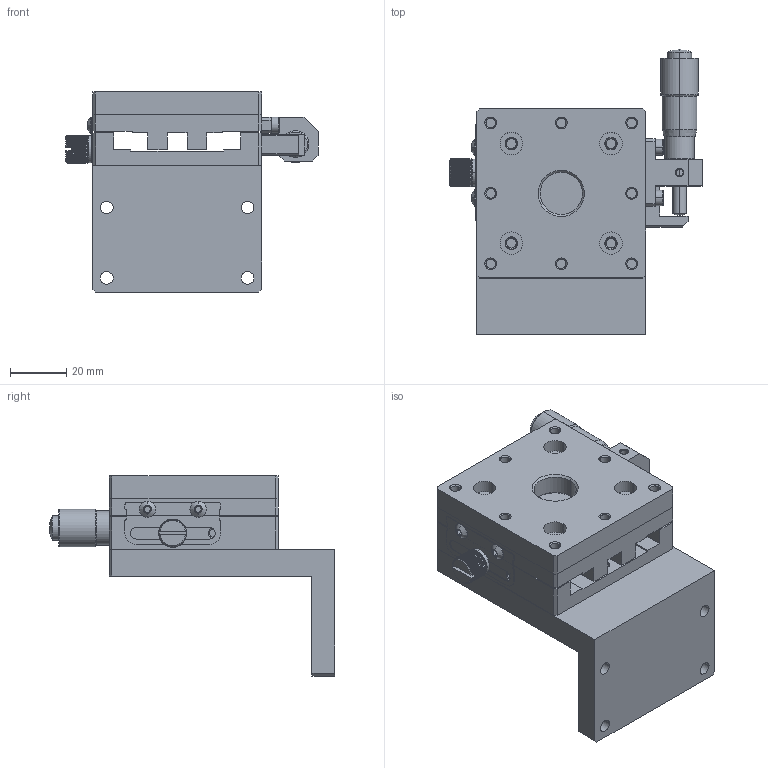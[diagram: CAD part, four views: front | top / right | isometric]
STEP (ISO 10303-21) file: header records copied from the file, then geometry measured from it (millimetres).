
FILE_DESCRIPTION((''),'2;1');
FILE_NAME('060-060-18-ST13-Z-R_ASM','2022-06-23T15:25:36',('windows10'),(''),'CREO PARAMETRIC BY PTC INC, 2018260','CREO PARAMETRIC BY PTC INC, 2018260','');
FILE_SCHEMA(('CONFIG_CONTROL_DESIGN'));
Length unit declared in the file: millimetre
Products named in the file (14): BRACKET-L-60; BOTTOM-60-18; TOP-60-18; STOPPER-PLATE-608090; 3-5-ROUND; WHASHER; STOPPER; PIN-BLOCK-608090; 3-8; HEAD-BLOCK-608090; MICRO-HEAD-13NEW-SJP; 060-060-18-ST13-X-R_ASM; PLATE-TOP-60-Z; 060-060-18-ST13-Z-R_ASM
Assembly tree (17 placements, depth 3):
  060-060-18-ST13-Z-R_ASM
    BRACKET-L-60
    060-060-18-ST13-X-R_ASM
      BOTTOM-60-18
      TOP-60-18
      STOPPER-PLATE-608090
      3-5-ROUND  x2
      WHASHER
      STOPPER
      PIN-BLOCK-608090
      3-8  x4
      HEAD-BLOCK-608090
      MICRO-HEAD-13NEW-SJP
    PLATE-TOP-60-Z
Bounding box: 89.5 x 101.15 x 71 mm (x, y, z)
Volume: 142138.6 mm3; surface area: 60778.2 mm2
Topology: 17 solids, 18 shells, 1131 faces, 2867 edges, 1860 vertices
Faces by surface type: plane 598, cylinder 367, cone 150, torus 8, bspline 4, sphere 4
Entity records: 32879 total; most frequent: CARTESIAN_POINT 7002, ORIENTED_EDGE 5338, DIRECTION 5297, EDGE_CURVE 2671, AXIS2_PLACEMENT_3D 2012, VERTEX_POINT 1740, VECTOR 1273, LINE 1273
